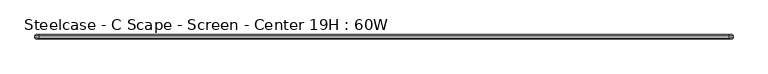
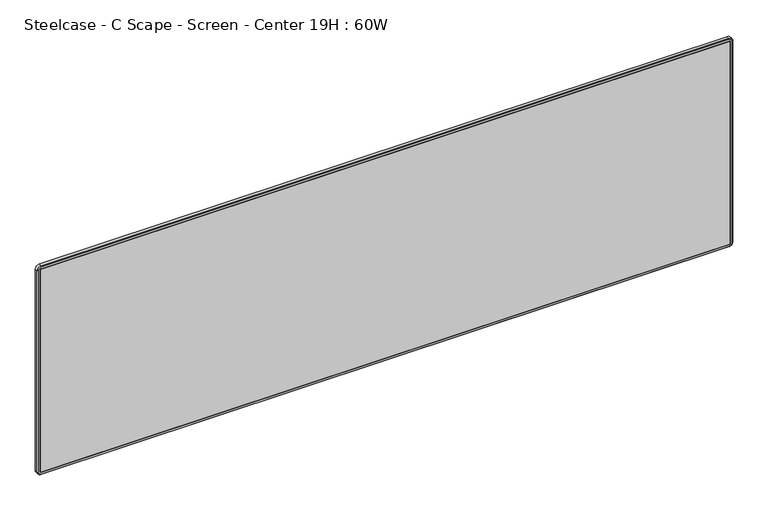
"""IFC4 building model written with IfcOpenShell, lengths in millimetres: furniture geometry, Steelcase - C Scape - Screen - Center 19H : 60W."""

from ifc_helpers import new_model, si_unit, frame, origin, place, context, project, spatial, polyline, circle_curve, outline, extrude, source, transform, mapped, element, save
from ifc_brep_helpers import plane_surface, cylinder_surface, revolved_surface, advanced_brep


def steelcase_c_scape_screen_center_19h_60w_f9151172(model_context):
    return source(origin(), model_context, "Body", "SolidModel", [
        advanced_brep(
        [(6.3501994, -7.9375, 1222.6655677), (8.21859, -7.9375, 1224.5339583), (8.21859, -17.4625, 1224.5339583), (6.3501994, -17.4625, 1222.6655677), (0.0002237, -9.6896209, 1222.6655677), (8.21859, -9.6896209, 1230.8839341), (8.21859, -7.9375, 1229.1318132), (1.7523445, -7.9375, 1222.6655677), (0.0002237, -15.7098203, 1222.6655677), (8.21859, -15.7098203, 1230.8839341), (1.7529034, -17.4625, 1222.6655677), (8.21859, -17.4625, 1229.1312544), (6.3501994, -17.4625, 756.5023005), (6.3501994, -7.9375, 756.5023005), (1.7523445, -7.9375, 756.5023005), (0.0002237, -9.6896209, 756.5023005), (0.0002237, -15.7098203, 756.5023005), (1.7529034, -17.4625, 756.5023005), (8.21859, -7.9375, 754.6339099), (8.21859, -17.4625, 754.6339099), (8.21859, -9.6896209, 748.2839341), (8.21859, -7.9375, 750.036055), (8.21859, -15.7098203, 748.2839341), (8.21859, -17.4625, 750.0366139), (1512.606615, -17.4625, 754.6339099), (1512.606615, -7.9375, 754.6339099), (1512.606615, -7.9375, 750.036055), (1512.606615, -9.6896209, 748.2839341), (1512.606615, -15.7098203, 748.2839341), (1512.606615, -17.4625, 750.0366139), (1514.4750056, -7.9375, 756.5023005), (1514.4750056, -17.4625, 756.5023005), (1520.8249814, -9.6896209, 756.5023005), (1519.0728605, -7.9375, 756.5023005), (1520.8249814, -15.7098203, 756.5023005), (1519.0723017, -17.4625, 756.5023005), (1514.4750056, -17.4625, 1222.6655677), (1514.4750056, -7.9375, 1222.6655677), (1519.0728605, -7.9375, 1222.6655677), (1520.8249814, -9.6896209, 1222.6655677), (1520.8249814, -15.7098203, 1222.6655677), (1519.0723017, -17.4625, 1222.6655677), (1512.606615, -7.9375, 1224.5339583), (1512.606615, -17.4625, 1224.5339583), (1512.606615, -7.9375, 1229.1318132), (1512.606615, -9.6896209, 1230.8839341), (1512.606615, -15.7098203, 1230.8839341), (1512.606615, -17.4625, 1229.1312544)],
        [
            (0, 1, circle_curve(frame((8.21859, -7.9375, 1222.6655677), z_axis=(0.0, 1.0, 0.0), x_axis=(0.0, 0.0, 1.0)), 1.8683906)),
            (1, 2),
            (2, 3, circle_curve(frame((8.21859, -17.4625, 1222.6655677), z_axis=(0.0, -1.0, 0.0), x_axis=(0.0, 0.0, 1.0)), 1.8683906)),
            (3, 0),
            (4, 5, circle_curve(frame((8.21859, -9.6896209, 1222.6655677), z_axis=(0.0, 1.0, 0.0), x_axis=(0.0, 0.0, 1.0)), 8.2183664)),
            (5, 6),
            (6, 7, circle_curve(frame((8.21859, -7.9375, 1222.6655677), z_axis=(0.0, -1.0, 0.0), x_axis=(0.0, 0.0, 1.0)), 6.4662455)),
            (7, 4),
            (8, 9, circle_curve(frame((8.21859, -15.7098203, 1222.6655677), z_axis=(0.0, 1.0, 0.0), x_axis=(0.0, 0.0, 1.0)), 8.2183664)),
            (9, 5),
            (4, 8),
            (10, 11, circle_curve(frame((8.21859, -17.4625, 1222.6655677), z_axis=(0.0, 1.0, 0.0), x_axis=(0.0, 0.0, 1.0)), 6.4656866)),
            (11, 9),
            (8, 10),
            (3, 12),
            (12, 13),
            (13, 0),
            (7, 14),
            (14, 15),
            (15, 4),
            (15, 16),
            (16, 8),
            (16, 17),
            (17, 10),
            (18, 13, circle_curve(frame((8.21859, -7.9375, 756.5023005), z_axis=(0.0, 1.0, 0.0), x_axis=(-1.0, 0.0, 0.0)), 1.8683906)),
            (12, 19, circle_curve(frame((8.21859, -17.4625, 756.5023005), z_axis=(0.0, -1.0, 0.0), x_axis=(-1.0, 0.0, 0.0)), 1.8683906)),
            (19, 18),
            (20, 15, circle_curve(frame((8.21859, -9.6896209, 756.5023005), z_axis=(0.0, 1.0, 0.0), x_axis=(-1.0, 0.0, 0.0)), 8.2183664)),
            (14, 21, circle_curve(frame((8.21859, -7.9375, 756.5023005), z_axis=(0.0, -1.0, 0.0), x_axis=(-1.0, 0.0, 0.0)), 6.4662455)),
            (21, 20),
            (22, 16, circle_curve(frame((8.21859, -15.7098203, 756.5023005), z_axis=(0.0, 1.0, 0.0), x_axis=(-1.0, 0.0, 0.0)), 8.2183664)),
            (20, 22),
            (23, 17, circle_curve(frame((8.21859, -17.4625, 756.5023005), z_axis=(0.0, 1.0, 0.0), x_axis=(-1.0, 0.0, 0.0)), 6.4656866)),
            (22, 23),
            (19, 24),
            (24, 25),
            (25, 18),
            (21, 26),
            (26, 27),
            (27, 20),
            (27, 28),
            (28, 22),
            (28, 29),
            (29, 23),
            (30, 25, circle_curve(frame((1512.606615, -7.9375, 756.5023005), z_axis=(0.0, 1.0, 0.0), x_axis=(0.0, 0.0, -1.0)), 1.8683906)),
            (24, 31, circle_curve(frame((1512.606615, -17.4625, 756.5023005), z_axis=(0.0, -1.0, 0.0), x_axis=(0.0, 0.0, -1.0)), 1.8683906)),
            (31, 30),
            (32, 27, circle_curve(frame((1512.606615, -9.6896209, 756.5023005), z_axis=(0.0, 1.0, 0.0), x_axis=(0.0, 0.0, -1.0)), 8.2183664)),
            (26, 33, circle_curve(frame((1512.606615, -7.9375, 756.5023005), z_axis=(0.0, -1.0, 0.0), x_axis=(0.0, 0.0, -1.0)), 6.4662455)),
            (33, 32),
            (34, 28, circle_curve(frame((1512.606615, -15.7098203, 756.5023005), z_axis=(0.0, 1.0, 0.0), x_axis=(0.0, 0.0, -1.0)), 8.2183664)),
            (32, 34),
            (35, 29, circle_curve(frame((1512.606615, -17.4625, 756.5023005), z_axis=(0.0, 1.0, 0.0), x_axis=(0.0, 0.0, -1.0)), 6.4656866)),
            (34, 35),
            (31, 36),
            (36, 37),
            (37, 30),
            (33, 38),
            (38, 39),
            (39, 32),
            (39, 40),
            (40, 34),
            (40, 41),
            (41, 35),
            (42, 37, circle_curve(frame((1512.606615, -7.9375, 1222.6655677), z_axis=(0.0, 1.0, 0.0), x_axis=(1.0, 0.0, 0.0)), 1.8683906)),
            (36, 43, circle_curve(frame((1512.606615, -17.4625, 1222.6655677), z_axis=(0.0, -1.0, 0.0), x_axis=(1.0, 0.0, 0.0)), 1.8683906)),
            (43, 42),
            (44, 38, circle_curve(frame((1512.606615, -7.9375, 1222.6655677), z_axis=(0.0, 1.0, 0.0), x_axis=(1.0, 0.0, 0.0)), 6.4662455)),
            (6, 44),
            (42, 1),
            (45, 39, circle_curve(frame((1512.606615, -9.6896209, 1222.6655677), z_axis=(0.0, 1.0, 0.0), x_axis=(1.0, 0.0, 0.0)), 8.2183664)),
            (44, 45),
            (46, 40, circle_curve(frame((1512.606615, -15.7098203, 1222.6655677), z_axis=(0.0, 1.0, 0.0), x_axis=(1.0, 0.0, 0.0)), 8.2183664)),
            (45, 46),
            (47, 41, circle_curve(frame((1512.606615, -17.4625, 1222.6655677), z_axis=(0.0, 1.0, 0.0), x_axis=(1.0, 0.0, 0.0)), 6.4656866)),
            (46, 47),
            (47, 11),
            (2, 43),
            (5, 45),
            (9, 46),
        ],
        [
            revolved_surface(polyline([(8.21859, -17.4625, 1224.5339583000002), (8.21859, -7.9375, 1224.5339583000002)]), (8.21859, -7.9375, 1222.6655677), (0.0, -1.0, 0.0)),
            revolved_surface(polyline([(8.21859, -7.9375, 1229.1318132), (8.21859, -9.6896209, 1230.8839341)]), (8.21859, -7.9375, 1222.6655677), (0.0, -1.0, 0.0)),
            cylinder_surface(frame((8.21859, -7.9375, 1222.6655677), z_axis=(0.0, -1.0, 0.0), x_axis=(0.0, 0.0, 1.0)), 8.2183664),
            revolved_surface(polyline([(8.21859, -15.7098203, 1230.8839341), (8.21859, -17.4625, 1229.1312544)]), (8.21859, -7.9375, 1222.6655677), (0.0, -1.0, 0.0)),
            plane_surface(frame((6.3501994, -17.4625, 1222.6655677), z_axis=(1.0, 0.0, 0.0), x_axis=(0.0, 0.0, -1.0))),
            plane_surface(frame((1.7523445, -7.9375, 1222.6655677), z_axis=(-0.707106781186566, 0.707106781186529, 0.0), x_axis=(0.0, 0.0, -1.0))),
            plane_surface(frame((0.0002237, -9.6896209, 1222.6655677), z_axis=(-1.0, 0.0, 0.0), x_axis=(0.0, 0.0, -1.0))),
            plane_surface(frame((0.0002237, -15.7098203, 1222.6655677), z_axis=(-0.7071067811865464, -0.7071067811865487, 0.0), x_axis=(0.0, 0.0, -1.0))),
            revolved_surface(polyline([(6.350199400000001, -17.4625, 756.5023005), (6.350199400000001, -7.9375, 756.5023005)]), (8.21859, -7.9375, 756.5023005), (0.0, -1.0, 0.0)),
            revolved_surface(polyline([(1.7523445, -7.9375, 756.5023005), (0.0002237, -9.6896209, 756.5023005)]), (8.21859, -7.9375, 756.5023005), (0.0, -1.0, 0.0)),
            cylinder_surface(frame((8.21859, -7.9375, 756.5023005), z_axis=(0.0, -1.0, 0.0), x_axis=(-1.0, 0.0, 0.0)), 8.2183664),
            revolved_surface(polyline([(0.0002237, -15.7098203, 756.5023005), (1.7529034, -17.4625, 756.5023005)]), (8.21859, -7.9375, 756.5023005), (0.0, -1.0, 0.0)),
            plane_surface(frame((8.21859, -17.4625, 754.6339099), z_axis=(0.0, 0.0, 1.0), x_axis=(1.0, 0.0, 0.0))),
            plane_surface(frame((8.21859, -7.9375, 750.036055), z_axis=(0.0, 0.7071067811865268, -0.7071067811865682), x_axis=(1.0, 0.0, 0.0))),
            plane_surface(frame((8.21859, -9.6896209, 748.2839341), z_axis=(0.0, 0.0, -1.0), x_axis=(1.0, 0.0, 0.0))),
            plane_surface(frame((8.21859, -15.7098203, 748.2839341), z_axis=(0.0, -0.7071067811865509, -0.7071067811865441), x_axis=(1.0, 0.0, 0.0))),
            revolved_surface(polyline([(1512.606615, -17.4625, 754.6339099), (1512.606615, -7.9375, 754.6339099)]), (1512.606615, -7.9375, 756.5023005), (0.0, -1.0, 0.0)),
            revolved_surface(polyline([(1512.606615, -7.9375, 750.036055), (1512.606615, -9.6896209, 748.2839341)]), (1512.606615, -7.9375, 756.5023005), (0.0, -1.0, 0.0)),
            cylinder_surface(frame((1512.606615, -7.9375, 756.5023005), z_axis=(0.0, -1.0, 0.0), x_axis=(0.0, 0.0, -1.0)), 8.2183664),
            revolved_surface(polyline([(1512.606615, -15.7098203, 748.2839341), (1512.606615, -17.4625, 750.0366139)]), (1512.606615, -7.9375, 756.5023005), (0.0, -1.0, 0.0)),
            plane_surface(frame((1514.4750056, -17.4625, 756.5023005), z_axis=(-1.0, 0.0, 0.0), x_axis=(0.0, 0.0, 1.0))),
            plane_surface(frame((1519.0728605, -7.9375, 756.5023005), z_axis=(0.7071067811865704, 0.7071067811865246, 0.0), x_axis=(0.0, 0.0, 1.0))),
            plane_surface(frame((1520.8249814, -9.6896209, 756.5023005), z_axis=(1.0, 0.0, 0.0), x_axis=(0.0, 0.0, 1.0))),
            plane_surface(frame((1520.8249814, -15.7098203, 756.5023005), z_axis=(0.7071067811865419, -0.7071067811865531, 0.0), x_axis=(0.0, 0.0, 1.0))),
            revolved_surface(polyline([(1514.4750056, -17.4625, 1222.6655677), (1514.4750056, -7.9375, 1222.6655677)]), (1512.606615, -7.9375, 1222.6655677), (0.0, -1.0, 0.0)),
            plane_surface(frame((1512.606615, -7.9375, 1222.6655677), z_axis=(0.0, 1.0, 0.0), x_axis=(1.0, 0.0, 0.0))),
            revolved_surface(polyline([(1519.0728605, -7.9375, 1222.6655677), (1520.8249814, -9.6896209, 1222.6655677)]), (1512.606615, -7.9375, 1222.6655677), (0.0, -1.0, 0.0)),
            cylinder_surface(frame((1512.606615, -7.9375, 1222.6655677), z_axis=(0.0, -1.0, 0.0), x_axis=(1.0, 0.0, 0.0)), 8.2183664),
            revolved_surface(polyline([(1520.8249814, -15.7098203, 1222.6655677), (1519.0723017, -17.4625, 1222.6655677)]), (1512.606615, -7.9375, 1222.6655677), (0.0, -1.0, 0.0)),
            plane_surface(frame((1512.606615, -17.4625, 1222.6655677), z_axis=(0.0, -1.0, 0.0), x_axis=(1.0, 0.0, 0.0))),
            plane_surface(frame((1512.606615, -17.4625, 1224.5339583), z_axis=(0.0, 0.0, -1.0), x_axis=(-1.0, 0.0, 0.0))),
            plane_surface(frame((1512.606615, -7.9375, 1229.1318132), z_axis=(0.0, 0.7071067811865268, 0.7071067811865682), x_axis=(-1.0, 0.0, 0.0))),
            plane_surface(frame((1512.606615, -9.6896209, 1230.8839341), z_axis=(0.0, 0.0, 1.0), x_axis=(-1.0, 0.0, 0.0))),
            plane_surface(frame((1512.606615, -15.7098203, 1230.8839341), z_axis=(0.0, -0.7071067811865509, 0.7071067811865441), x_axis=(-1.0, 0.0, 0.0))),
        ],
        [
            (0, [[1, 2, 3, 4]]),
            (1, [[5, 6, 7, 8]]),
            (2, [[9, 10, -5, 11]]),
            (3, [[12, 13, -9, 14]]),
            (4, [[-4, 15, 16, 17]]),
            (5, [[-8, 18, 19, 20]]),
            (6, [[-11, -20, 21, 22]]),
            (7, [[-14, -22, 23, 24]]),
            (8, [[25, -16, 26, 27]]),
            (9, [[28, -19, 29, 30]]),
            (10, [[31, -21, -28, 32]]),
            (11, [[33, -23, -31, 34]]),
            (12, [[-27, 35, 36, 37]]),
            (13, [[-30, 38, 39, 40]]),
            (14, [[-32, -40, 41, 42]]),
            (15, [[-34, -42, 43, 44]]),
            (16, [[45, -36, 46, 47]]),
            (17, [[48, -39, 49, 50]]),
            (18, [[51, -41, -48, 52]]),
            (19, [[53, -43, -51, 54]]),
            (20, [[-47, 55, 56, 57]]),
            (21, [[-50, 58, 59, 60]]),
            (22, [[-52, -60, 61, 62]]),
            (23, [[-54, -62, 63, 64]]),
            (24, [[65, -56, 66, 67]]),
            (25, [[68, -58, -49, -38, -29, -18, -7, 69], [-37, -45, -57, -65, 70, -1, -17, -25]]),
            (26, [[71, -59, -68, 72]]),
            (27, [[73, -61, -71, 74]]),
            (28, [[75, -63, -73, 76]]),
            (29, [[-44, -53, -64, -75, 77, -12, -24, -33], [-66, -55, -46, -35, -26, -15, -3, 78]]),
            (30, [[-67, -78, -2, -70]]),
            (31, [[-72, -69, -6, 79]]),
            (32, [[-74, -79, -10, 80]]),
            (33, [[-76, -80, -13, -77]]),
        ],
    ),
        extrude(outline(polyline([(1514.4750056, -7.9375), (1514.4750056, -17.4625), (6.3501994, -17.4625), (6.3501994, -7.9375), (1514.4750056, -7.9375)])), frame((0.0, 0.0, 754.6339099), z_axis=(0.0, 0.0, 1.0), x_axis=(1.0, 0.0, 0.0)), (0.0, 0.0, 1.0), 469.9000484),
    ])


if __name__ == "__main__":
    model = new_model("IFC4")
    model_context = context("Model", 3, world=origin())
    ifc_project = project(units=[si_unit("LENGTHUNIT", "METRE", prefix="MILLI")], contexts=[model_context])
    site = spatial("IfcSite", under=ifc_project)
    building = spatial("IfcBuilding", under=site)
    placement = place(None, origin())
    steelcase_c_scape_screen_center_19h_60w_shape = steelcase_c_scape_screen_center_19h_60w_f9151172(model_context)
    element("IfcFurniture", 1, ObjectType="Steelcase - C Scape - Screen - Center 19H : 60W", at=placement, inside=building, context=model_context, shape_type="MappedRepresentation", body=[
        mapped(steelcase_c_scape_screen_center_19h_60w_shape, transform((0.0, 0.0, 0.0), x_axis=(1.0, 0.0, 0.0), y_axis=(0.0, 1.0, 0.0), z_axis=(0.0, 0.0, 1.0))),
    ])
    save(model, "model.ifc")
